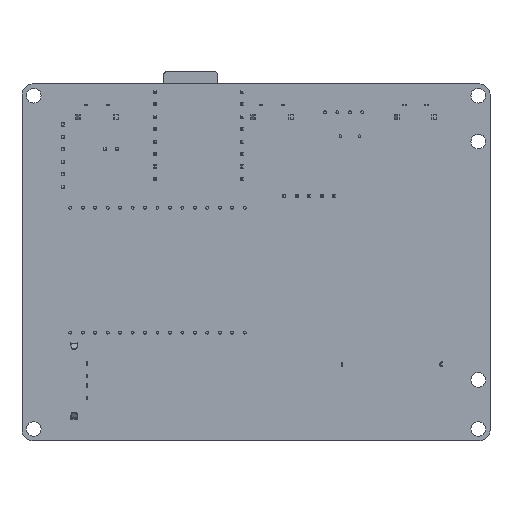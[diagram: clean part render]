
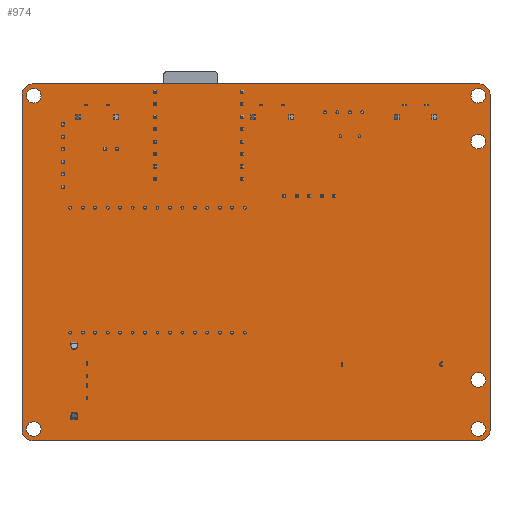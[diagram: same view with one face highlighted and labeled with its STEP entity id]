
A CAD part, top view. The second image highlights one B-rep face of the part: STEP entity #974.
In plain terms, the highlighted planar face has unit normal (0, 0, 1).
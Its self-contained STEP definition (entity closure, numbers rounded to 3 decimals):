
#161 = VERTEX_POINT('',#162);
#162 = CARTESIAN_POINT('',(-18.574,60.325,0.));
#179 = VERTEX_POINT('',#180);
#180 = CARTESIAN_POINT('',(-18.415,61.119,0.));
#186 = EDGE_CURVE('',#161,#179,#187,.T.);
#187 = LINE('',#188,#189);
#188 = CARTESIAN_POINT('',(-18.574,60.325,0.));
#189 = VECTOR('',#190,1.);
#190 = DIRECTION('',(0.196,0.981,0.));
#210 = VERTEX_POINT('',#211);
#211 = CARTESIAN_POINT('',(-17.939,61.754,0.));
#217 = EDGE_CURVE('',#179,#210,#218,.T.);
#218 = LINE('',#219,#220);
#219 = CARTESIAN_POINT('',(-18.415,61.119,0.));
#220 = VECTOR('',#221,1.);
#221 = DIRECTION('',(0.6,0.8,0.));
#241 = VERTEX_POINT('',#242);
#242 = CARTESIAN_POINT('',(-17.304,62.23,0.));
#248 = EDGE_CURVE('',#210,#241,#249,.T.);
#249 = LINE('',#250,#251);
#250 = CARTESIAN_POINT('',(-17.939,61.754,0.));
#251 = VECTOR('',#252,1.);
#252 = DIRECTION('',(0.8,0.6,0.));
#272 = VERTEX_POINT('',#273);
#273 = CARTESIAN_POINT('',(-16.51,62.389,0.));
#279 = EDGE_CURVE('',#241,#272,#280,.T.);
#280 = LINE('',#281,#282);
#281 = CARTESIAN_POINT('',(-17.304,62.23,0.));
#282 = VECTOR('',#283,1.);
#283 = DIRECTION('',(0.981,0.196,0.));
#303 = VERTEX_POINT('',#304);
#304 = CARTESIAN_POINT('',(74.771,62.389,0.));
#310 = EDGE_CURVE('',#272,#303,#311,.T.);
#311 = LINE('',#312,#313);
#312 = CARTESIAN_POINT('',(-16.51,62.389,0.));
#313 = VECTOR('',#314,1.);
#314 = DIRECTION('',(1.,0.,0.));
#334 = VERTEX_POINT('',#335);
#335 = CARTESIAN_POINT('',(75.565,62.23,0.));
#341 = EDGE_CURVE('',#303,#334,#342,.T.);
#342 = LINE('',#343,#344);
#343 = CARTESIAN_POINT('',(74.771,62.389,0.));
#344 = VECTOR('',#345,1.);
#345 = DIRECTION('',(0.981,-0.196,0.));
#365 = VERTEX_POINT('',#366);
#366 = CARTESIAN_POINT('',(76.2,61.754,0.));
#372 = EDGE_CURVE('',#334,#365,#373,.T.);
#373 = LINE('',#374,#375);
#374 = CARTESIAN_POINT('',(75.565,62.23,0.));
#375 = VECTOR('',#376,1.);
#376 = DIRECTION('',(0.8,-0.6,0.));
#396 = VERTEX_POINT('',#397);
#397 = CARTESIAN_POINT('',(76.676,61.119,0.));
#403 = EDGE_CURVE('',#365,#396,#404,.T.);
#404 = LINE('',#405,#406);
#405 = CARTESIAN_POINT('',(76.2,61.754,0.));
#406 = VECTOR('',#407,1.);
#407 = DIRECTION('',(0.6,-0.8,0.));
#427 = VERTEX_POINT('',#428);
#428 = CARTESIAN_POINT('',(76.835,60.325,0.));
#434 = EDGE_CURVE('',#396,#427,#435,.T.);
#435 = LINE('',#436,#437);
#436 = CARTESIAN_POINT('',(76.676,61.119,0.));
#437 = VECTOR('',#438,1.);
#438 = DIRECTION('',(0.196,-0.981,0.));
#458 = VERTEX_POINT('',#459);
#459 = CARTESIAN_POINT('',(76.835,-8.255,0.));
#465 = EDGE_CURVE('',#427,#458,#466,.T.);
#466 = LINE('',#467,#468);
#467 = CARTESIAN_POINT('',(76.835,60.325,0.));
#468 = VECTOR('',#469,1.);
#469 = DIRECTION('',(0.,-1.,0.));
#489 = VERTEX_POINT('',#490);
#490 = CARTESIAN_POINT('',(76.676,-9.049,0.));
#496 = EDGE_CURVE('',#458,#489,#497,.T.);
#497 = LINE('',#498,#499);
#498 = CARTESIAN_POINT('',(76.835,-8.255,0.));
#499 = VECTOR('',#500,1.);
#500 = DIRECTION('',(-0.196,-0.981,0.));
#520 = VERTEX_POINT('',#521);
#521 = CARTESIAN_POINT('',(76.2,-9.684,0.));
#527 = EDGE_CURVE('',#489,#520,#528,.T.);
#528 = LINE('',#529,#530);
#529 = CARTESIAN_POINT('',(76.676,-9.049,0.));
#530 = VECTOR('',#531,1.);
#531 = DIRECTION('',(-0.6,-0.8,0.));
#551 = VERTEX_POINT('',#552);
#552 = CARTESIAN_POINT('',(75.565,-10.16,0.));
#558 = EDGE_CURVE('',#520,#551,#559,.T.);
#559 = LINE('',#560,#561);
#560 = CARTESIAN_POINT('',(76.2,-9.684,0.));
#561 = VECTOR('',#562,1.);
#562 = DIRECTION('',(-0.8,-0.6,0.));
#582 = VERTEX_POINT('',#583);
#583 = CARTESIAN_POINT('',(74.771,-10.319,0.));
#589 = EDGE_CURVE('',#551,#582,#590,.T.);
#590 = LINE('',#591,#592);
#591 = CARTESIAN_POINT('',(75.565,-10.16,0.));
#592 = VECTOR('',#593,1.);
#593 = DIRECTION('',(-0.981,-0.196,0.));
#613 = VERTEX_POINT('',#614);
#614 = CARTESIAN_POINT('',(-16.51,-10.319,0.));
#620 = EDGE_CURVE('',#582,#613,#621,.T.);
#621 = LINE('',#622,#623);
#622 = CARTESIAN_POINT('',(74.771,-10.319,0.));
#623 = VECTOR('',#624,1.);
#624 = DIRECTION('',(-1.,0.,0.));
#644 = VERTEX_POINT('',#645);
#645 = CARTESIAN_POINT('',(-17.304,-10.16,0.));
#651 = EDGE_CURVE('',#613,#644,#652,.T.);
#652 = LINE('',#653,#654);
#653 = CARTESIAN_POINT('',(-16.51,-10.319,0.));
#654 = VECTOR('',#655,1.);
#655 = DIRECTION('',(-0.981,0.196,0.));
#675 = VERTEX_POINT('',#676);
#676 = CARTESIAN_POINT('',(-17.939,-9.684,0.));
#682 = EDGE_CURVE('',#644,#675,#683,.T.);
#683 = LINE('',#684,#685);
#684 = CARTESIAN_POINT('',(-17.304,-10.16,0.));
#685 = VECTOR('',#686,1.);
#686 = DIRECTION('',(-0.8,0.6,0.));
#706 = VERTEX_POINT('',#707);
#707 = CARTESIAN_POINT('',(-18.415,-9.049,0.));
#713 = EDGE_CURVE('',#675,#706,#714,.T.);
#714 = LINE('',#715,#716);
#715 = CARTESIAN_POINT('',(-17.939,-9.684,0.));
#716 = VECTOR('',#717,1.);
#717 = DIRECTION('',(-0.6,0.8,0.));
#737 = VERTEX_POINT('',#738);
#738 = CARTESIAN_POINT('',(-18.574,-8.255,0.));
#744 = EDGE_CURVE('',#706,#737,#745,.T.);
#745 = LINE('',#746,#747);
#746 = CARTESIAN_POINT('',(-18.415,-9.049,0.));
#747 = VECTOR('',#748,1.);
#748 = DIRECTION('',(-0.196,0.981,0.));
#766 = EDGE_CURVE('',#737,#161,#767,.T.);
#767 = LINE('',#768,#769);
#768 = CARTESIAN_POINT('',(-18.574,-8.255,0.));
#769 = VECTOR('',#770,1.);
#770 = DIRECTION('',(0.,1.,0.));
#781 = VERTEX_POINT('',#782);
#782 = CARTESIAN_POINT('',(-14.692,60.008,0.));
#798 = EDGE_CURVE('',#781,#781,#799,.T.);
#799 = CIRCLE('',#800,1.5);
#800 = AXIS2_PLACEMENT_3D('',#801,#802,#803);
#801 = CARTESIAN_POINT('',(-16.192,60.008,0.));
#802 = DIRECTION('',(0.,0.,-1.));
#803 = DIRECTION('',(1.,0.,0.));
#814 = VERTEX_POINT('',#815);
#815 = CARTESIAN_POINT('',(-14.693,-7.938,0.));
#831 = EDGE_CURVE('',#814,#814,#832,.T.);
#832 = CIRCLE('',#833,1.5);
#833 = AXIS2_PLACEMENT_3D('',#834,#835,#836);
#834 = CARTESIAN_POINT('',(-16.193,-7.938,0.));
#835 = DIRECTION('',(0.,0.,-1.));
#836 = DIRECTION('',(1.,0.,0.));
#847 = VERTEX_POINT('',#848);
#848 = CARTESIAN_POINT('',(75.954,-7.938,0.));
#864 = EDGE_CURVE('',#847,#847,#865,.T.);
#865 = CIRCLE('',#866,1.5);
#866 = AXIS2_PLACEMENT_3D('',#867,#868,#869);
#867 = CARTESIAN_POINT('',(74.454,-7.938,0.));
#868 = DIRECTION('',(0.,0.,-1.));
#869 = DIRECTION('',(1.,0.,0.));
#880 = VERTEX_POINT('',#881);
#881 = CARTESIAN_POINT('',(75.954,60.008,0.));
#897 = EDGE_CURVE('',#880,#880,#898,.T.);
#898 = CIRCLE('',#899,1.5);
#899 = AXIS2_PLACEMENT_3D('',#900,#901,#902);
#900 = CARTESIAN_POINT('',(74.454,60.008,0.));
#901 = DIRECTION('',(0.,0.,-1.));
#902 = DIRECTION('',(1.,0.,0.));
#913 = VERTEX_POINT('',#914);
#914 = CARTESIAN_POINT('',(75.954,2.064,0.));
#930 = EDGE_CURVE('',#913,#913,#931,.T.);
#931 = CIRCLE('',#932,1.5);
#932 = AXIS2_PLACEMENT_3D('',#933,#934,#935);
#933 = CARTESIAN_POINT('',(74.454,2.064,0.));
#934 = DIRECTION('',(0.,0.,-1.));
#935 = DIRECTION('',(1.,0.,0.));
#946 = VERTEX_POINT('',#947);
#947 = CARTESIAN_POINT('',(75.954,50.641,0.));
#963 = EDGE_CURVE('',#946,#946,#964,.T.);
#964 = CIRCLE('',#965,1.5);
#965 = AXIS2_PLACEMENT_3D('',#966,#967,#968);
#966 = CARTESIAN_POINT('',(74.454,50.641,0.));
#967 = DIRECTION('',(0.,0.,-1.));
#968 = DIRECTION('',(1.,0.,0.));
#974 = ADVANCED_FACE('',(#975,#997,#1000,#1003,#1006,#1009,#1012),#1015,
  .T.);
#975 = FACE_BOUND('',#976,.F.);
#976 = EDGE_LOOP('',(#977,#978,#979,#980,#981,#982,#983,#984,#985,#986,
    #987,#988,#989,#990,#991,#992,#993,#994,#995,#996));
#977 = ORIENTED_EDGE('',*,*,#186,.T.);
#978 = ORIENTED_EDGE('',*,*,#217,.T.);
#979 = ORIENTED_EDGE('',*,*,#248,.T.);
#980 = ORIENTED_EDGE('',*,*,#279,.T.);
#981 = ORIENTED_EDGE('',*,*,#310,.T.);
#982 = ORIENTED_EDGE('',*,*,#341,.T.);
#983 = ORIENTED_EDGE('',*,*,#372,.T.);
#984 = ORIENTED_EDGE('',*,*,#403,.T.);
#985 = ORIENTED_EDGE('',*,*,#434,.T.);
#986 = ORIENTED_EDGE('',*,*,#465,.T.);
#987 = ORIENTED_EDGE('',*,*,#496,.T.);
#988 = ORIENTED_EDGE('',*,*,#527,.T.);
#989 = ORIENTED_EDGE('',*,*,#558,.T.);
#990 = ORIENTED_EDGE('',*,*,#589,.T.);
#991 = ORIENTED_EDGE('',*,*,#620,.T.);
#992 = ORIENTED_EDGE('',*,*,#651,.T.);
#993 = ORIENTED_EDGE('',*,*,#682,.T.);
#994 = ORIENTED_EDGE('',*,*,#713,.T.);
#995 = ORIENTED_EDGE('',*,*,#744,.T.);
#996 = ORIENTED_EDGE('',*,*,#766,.T.);
#997 = FACE_BOUND('',#998,.F.);
#998 = EDGE_LOOP('',(#999));
#999 = ORIENTED_EDGE('',*,*,#798,.T.);
#1000 = FACE_BOUND('',#1001,.F.);
#1001 = EDGE_LOOP('',(#1002));
#1002 = ORIENTED_EDGE('',*,*,#831,.T.);
#1003 = FACE_BOUND('',#1004,.F.);
#1004 = EDGE_LOOP('',(#1005));
#1005 = ORIENTED_EDGE('',*,*,#864,.T.);
#1006 = FACE_BOUND('',#1007,.F.);
#1007 = EDGE_LOOP('',(#1008));
#1008 = ORIENTED_EDGE('',*,*,#897,.T.);
#1009 = FACE_BOUND('',#1010,.F.);
#1010 = EDGE_LOOP('',(#1011));
#1011 = ORIENTED_EDGE('',*,*,#930,.T.);
#1012 = FACE_BOUND('',#1013,.F.);
#1013 = EDGE_LOOP('',(#1014));
#1014 = ORIENTED_EDGE('',*,*,#963,.T.);
#1015 = PLANE('',#1016);
#1016 = AXIS2_PLACEMENT_3D('',#1017,#1018,#1019);
#1017 = CARTESIAN_POINT('',(-18.574,60.325,0.));
#1018 = DIRECTION('',(0.,0.,1.));
#1019 = DIRECTION('',(1.,0.,0.));
